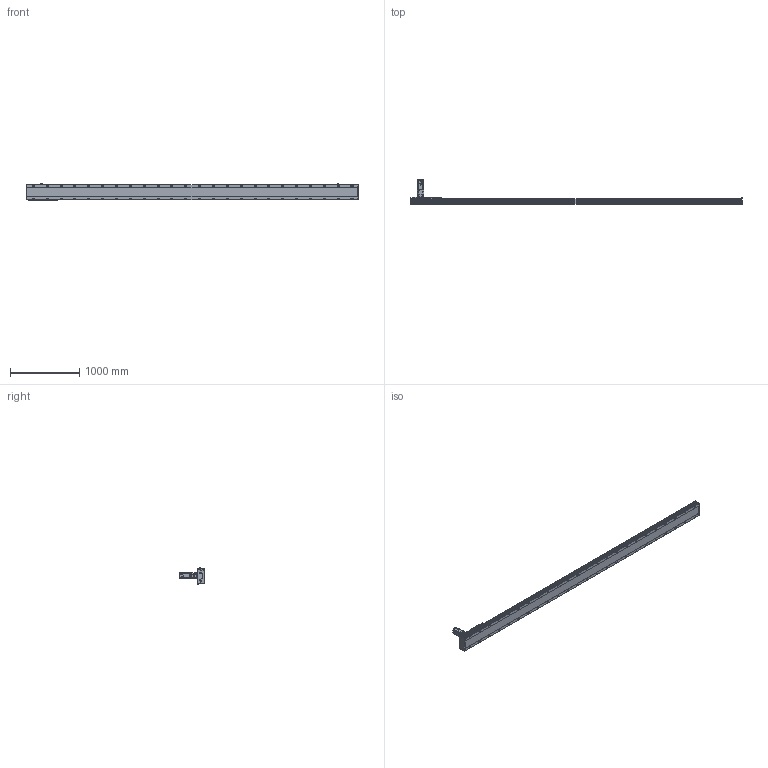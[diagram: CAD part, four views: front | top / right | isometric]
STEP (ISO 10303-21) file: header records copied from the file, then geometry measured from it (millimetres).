
FILE_DESCRIPTION(/* description */ ('STEP AP214'),/* implementation_level */ '2;1');
FILE_NAME(/* name */ 'SHS22A-L13-S4300-BC-T75-C1-N(0)',/* time_stamp */ '2022-06-15T02:28:47+02:00',/* author */ ('License CC BY-ND 4.0'),/* organization */ ('CADENAS'),/* preprocessor_version */ 'ST-DEVELOPER v18.102',/* originating_system */ 'PARTsolutions',/* authorisation */ ' ');
FILE_SCHEMA (('AUTOMOTIVE_DESIGN {1 0 10303 214 3 1 1}'));
Length unit declared in the file: millimetre
Products named in the file (7): SHS22A-L13-S4300-BC-T75-C1-N(0); PSC140-sensor; SHS22A-S4300_body2; T75-p1; SHS22A-S4300_body3; SHS22A-S4300_slider; SHS22A-L13-S4300-BC-T75-C1(0)_body
Assembly tree (13 placements, depth 2):
  SHS22A-L13-S4300-BC-T75-C1-N(0)
    PSC140-sensor  x3
    SHS22A-S4300_body2  x6
    T75-p1
    SHS22A-S4300_body3
    SHS22A-S4300_slider
    SHS22A-L13-S4300-BC-T75-C1(0)_body
Bounding box: 4794 x 350.8 x 238.4 mm (x, y, z)
Volume: 50973686.1 mm3; surface area: 5195265.1 mm2
Topology: 13 solids, 13 shells, 1989 faces, 5087 edges, 3328 vertices
Faces by surface type: plane 1376, cylinder 491, cone 113, torus 9
Full cylindrical faces by diameter (mm): 2.8 x3, 4.2 x2, 4.6 x3, 4.917 x4, 5 x4, 5.6 x24, 6 x31, 6.6 x24, 6.647 x8, 6.8 x9, 7.75 x6, 8 x3, 8.376 x48, 8.5 x48, 10 x4, 11 x4, 12 x24, 14 x48, 22 x1, 24.1 x1, 28 x1, 28.2 x1, 28.8 x1, 48.542 x1, 68 x1, 70 x1, 78 x1, 80 x2
Entity records: 34091 total; most frequent: CARTESIAN_POINT 6197, DIRECTION 5783, ORIENTED_EDGE 5124, EDGE_CURVE 2562, AXIS2_PLACEMENT_3D 2096, VERTEX_POINT 1870, FACE_BOUND 1864, EDGE_LOOP 1863
